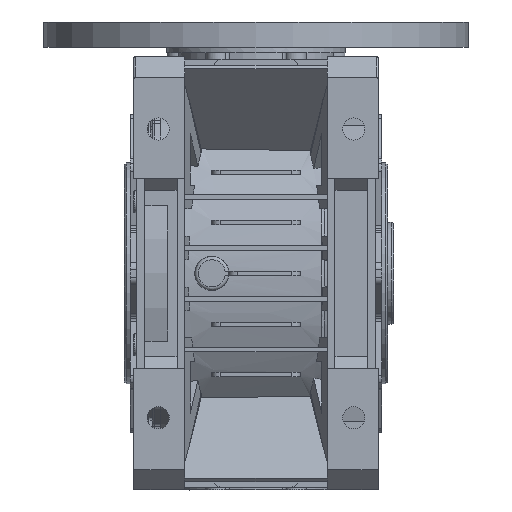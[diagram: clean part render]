
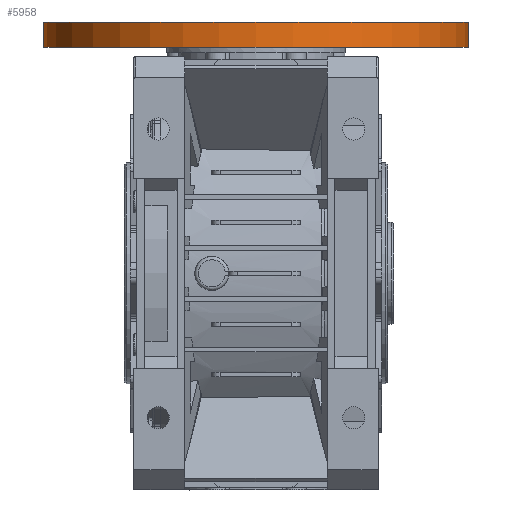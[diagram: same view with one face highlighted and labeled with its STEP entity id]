
A CAD part, front view. The second image highlights one B-rep face of the part: STEP entity #5958.
In plain terms, the highlighted cylindrical face has radius 125 mm (diameter 250 mm), a full revolution.
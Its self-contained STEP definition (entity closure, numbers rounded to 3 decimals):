
#5924=CARTESIAN_POINT('',(0.,125.,148.));
#5925=VERTEX_POINT('',#5924);
#5926=CARTESIAN_POINT('',(0.,0.,148.0));
#5927=DIRECTION('',(0.0,0.0,-1.0));
#5928=DIRECTION('',(0.0,1.0,0.0));
#5929=AXIS2_PLACEMENT_3D('',#5926,#5927,#5928);
#5930=CIRCLE('',#5929,125.0);
#5931=EDGE_CURVE('',#5925,#5925,#5930,.T.);
#5939=CARTESIAN_POINT('',(0.,0.,140.5));
#5940=DIRECTION('',(0.,0.,-1.0));
#5941=DIRECTION('',(0.0,1.0,0.0));
#5942=AXIS2_PLACEMENT_3D('',#5939,#5940,#5941);
#5943=CYLINDRICAL_SURFACE('',#5942,125.0);
#5944=CARTESIAN_POINT('',(0.,125.,133.));
#5945=VERTEX_POINT('',#5944);
#5946=CARTESIAN_POINT('',(0.,0.,133.0));
#5947=DIRECTION('',(0.0,0.0,-1.0));
#5948=DIRECTION('',(0.0,1.0,0.0));
#5949=AXIS2_PLACEMENT_3D('',#5946,#5947,#5948);
#5950=CIRCLE('',#5949,125.0);
#5951=EDGE_CURVE('',#5945,#5945,#5950,.T.);
#5952=ORIENTED_EDGE('',*,*,#5951,.F.);
#5953=EDGE_LOOP('',(#5952));
#5954=FACE_OUTER_BOUND('',#5953,.T.);
#5955=ORIENTED_EDGE('',*,*,#5931,.T.);
#5956=EDGE_LOOP('',(#5955));
#5957=FACE_BOUND('',#5956,.T.);
#5958=ADVANCED_FACE('',(#5954,#5957),#5943,.T.);
